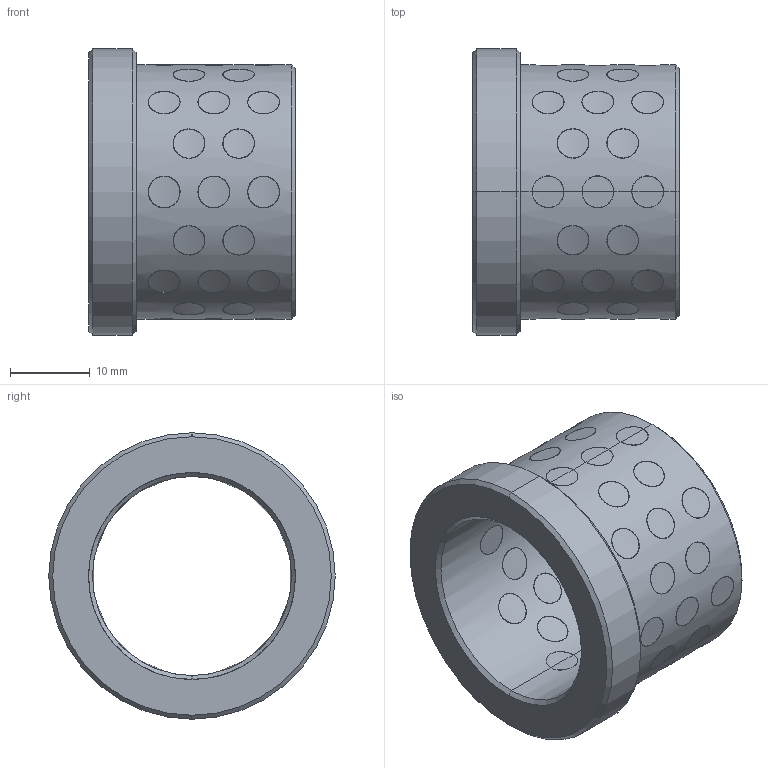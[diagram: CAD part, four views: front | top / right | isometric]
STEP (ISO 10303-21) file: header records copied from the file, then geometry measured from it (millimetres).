
FILE_DESCRIPTION(('CATIA V5 STEP Exchange'),'2;1');
FILE_NAME('C:\Users\Utente\Desktop\3D files G401\G4012526.stp','2020-04-22T08:36:49+00:00',('none'),('none'),'CATIA Version 5 Release 20 GA (IN-10)','CATIA V5 STEP AP203','none');
FILE_SCHEMA(('CONFIG_CONTROL_DESIGN'));
Length unit declared in the file: millimetre
Products named in the file (1): G4012526
Bounding box: 26 x 36 x 36 mm (x, y, z)
Surface area: 9132.2 mm2 (no closed solid volume)
Topology: 0 solids, 271 shells, 271 faces, 1180 edges, 1180 vertices
Faces by surface type: cylinder 258, revolution 10, plane 3
Entity records: 23547 total; most frequent: CARTESIAN_POINT 15325, ORIENTED_EDGE 1180, EDGE_CURVE 1180, VERTEX_POINT 1180, DIRECTION 969, B_SPLINE_CURVE_WITH_KNOTS 753, VECTOR 400, LINE 400
